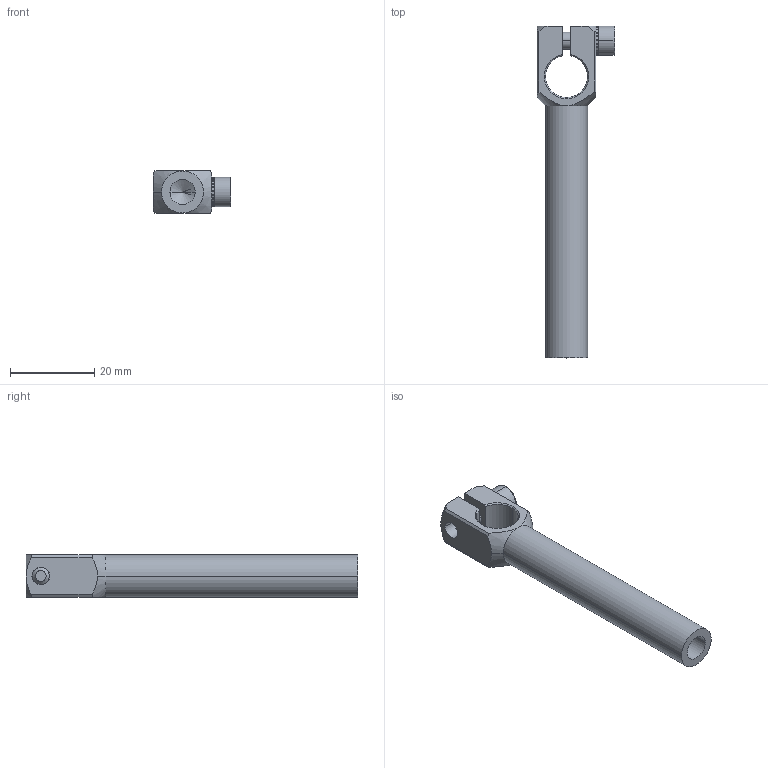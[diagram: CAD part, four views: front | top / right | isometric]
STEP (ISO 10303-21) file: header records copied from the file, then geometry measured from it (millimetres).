
FILE_DESCRIPTION (( 'STEP AP214' ), '1' );
FILE_NAME ('SCA1-1010L60.STEP', '2019-11-07T04:01:55', ( '微软用户' ), ( '微软中国' ), 'SwSTEP 2.0', 'SolidWorks 2016', '' );
FILE_SCHEMA (( 'AUTOMOTIVE_DESIGN' ));
Length unit declared in the file: millimetre
Products named in the file (1): SCA1-1010L60
Bounding box: 18.5 x 79 x 10 mm (x, y, z)
Volume: 4845.6 mm3; surface area: 4800.6 mm2
Topology: 3 solids, 3 shells, 253 faces, 718 edges, 470 vertices
Faces by surface type: plane 211, cylinder 23, cone 17, bspline 2
Entity records: 11270 total; most frequent: CARTESIAN_POINT 1682, DIRECTION 1441, ORIENTED_EDGE 1432, EDGE_CURVE 716, AXIS2_PLACEMENT_3D 496, VERTEX_POINT 470, VECTOR 449, LINE 449
